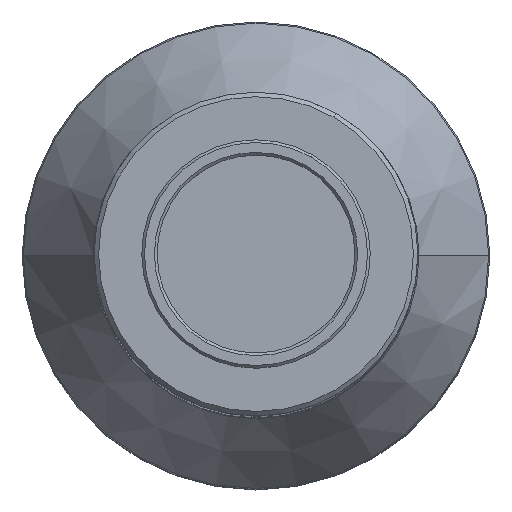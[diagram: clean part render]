
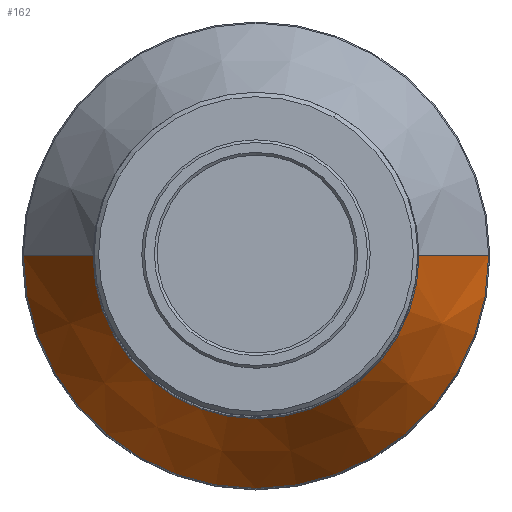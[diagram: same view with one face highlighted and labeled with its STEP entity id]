
A CAD part, top view. The second image highlights one B-rep face of the part: STEP entity #162.
In plain terms, the highlighted conical face has half-angle 30 degrees and reference radius 26 mm.
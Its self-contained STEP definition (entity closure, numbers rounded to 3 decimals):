
#110 = ORIENTED_EDGE ( 'NONE', *, *, #517, .T. ) ;
#162 = ADVANCED_FACE ( 'NONE', ( #1159 ), #1476, .T. ) ;
#174 = EDGE_CURVE ( 'NONE', #592, #730, #334, .T. ) ;
#175 = CARTESIAN_POINT ( 'NONE',  ( 18.134, 0., -2.401 ) ) ;
#236 = DIRECTION ( 'NONE',  ( -1., 0., 0. ) ) ;
#274 = LINE ( 'NONE', #1031, #833 ) ;
#334 = CIRCLE ( 'NONE', #1420, 25.866 ) ;
#369 = DIRECTION ( 'NONE',  ( 0., 0., 1. ) ) ;
#377 = EDGE_LOOP ( 'NONE', ( #535, #709, #110, #478 ) ) ;
#478 = ORIENTED_EDGE ( 'NONE', *, *, #174, .T. ) ;
#484 = DIRECTION ( 'NONE',  ( 1., 0., 0. ) ) ;
#500 = CARTESIAN_POINT ( 'NONE',  ( -25.866, 0., -15.793 ) ) ;
#517 = EDGE_CURVE ( 'NONE', #1288, #592, #1384, .T. ) ;
#525 = CARTESIAN_POINT ( 'NONE',  ( 25.866, 0., -15.793 ) ) ;
#535 = ORIENTED_EDGE ( 'NONE', *, *, #757, .F. ) ;
#592 = VERTEX_POINT ( 'NONE', #500 ) ;
#595 = CARTESIAN_POINT ( 'NONE',  ( 0., 0., -16.025 ) ) ;
#608 = AXIS2_PLACEMENT_3D ( 'NONE', #1499, #814, #1045 ) ;
#675 = AXIS2_PLACEMENT_3D ( 'NONE', #595, #1291, #236 ) ;
#709 = ORIENTED_EDGE ( 'NONE', *, *, #1120, .T. ) ;
#730 = VERTEX_POINT ( 'NONE', #525 ) ;
#733 = VERTEX_POINT ( 'NONE', #175 ) ;
#757 = EDGE_CURVE ( 'NONE', #733, #730, #274, .T. ) ;
#814 = DIRECTION ( 'NONE',  ( 0., 0., -1. ) ) ;
#833 = VECTOR ( 'NONE', #1167, 1000. ) ;
#1031 = CARTESIAN_POINT ( 'NONE',  ( 26., 0., -16.025 ) ) ;
#1045 = DIRECTION ( 'NONE',  ( -1., 0., 0. ) ) ;
#1067 = CARTESIAN_POINT ( 'NONE',  ( -18.134, 0., -2.401 ) ) ;
#1086 = VECTOR ( 'NONE', #1270, 1000. ) ;
#1120 = EDGE_CURVE ( 'NONE', #733, #1288, #1193, .T. ) ;
#1159 = FACE_OUTER_BOUND ( 'NONE', #377, .T. ) ;
#1167 = DIRECTION ( 'NONE',  ( 0.5, 0., -0.866 ) ) ;
#1184 = CARTESIAN_POINT ( 'NONE',  ( 0., 0., -15.793 ) ) ;
#1193 = CIRCLE ( 'NONE', #608, 18.134 ) ;
#1270 = DIRECTION ( 'NONE',  ( -0.5, 0., -0.866 ) ) ;
#1288 = VERTEX_POINT ( 'NONE', #1067 ) ;
#1291 = DIRECTION ( 'NONE',  ( 0., 0., -1. ) ) ;
#1384 = LINE ( 'NONE', #1492, #1086 ) ;
#1420 = AXIS2_PLACEMENT_3D ( 'NONE', #1184, #369, #484 ) ;
#1476 = CONICAL_SURFACE ( 'NONE', #675, 26., 0.524 ) ;
#1492 = CARTESIAN_POINT ( 'NONE',  ( -26., 0., -16.025 ) ) ;
#1499 = CARTESIAN_POINT ( 'NONE',  ( 0., 0., -2.401 ) ) ;
